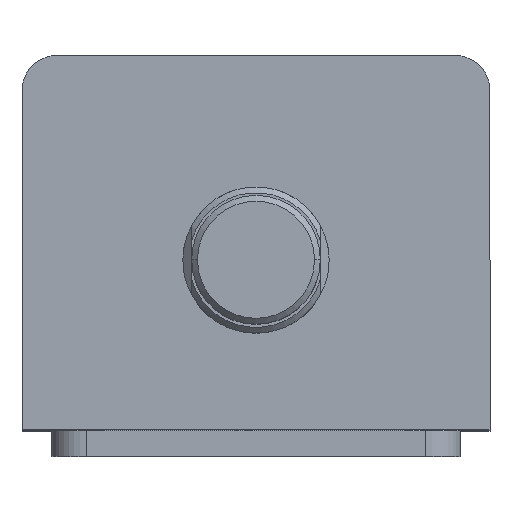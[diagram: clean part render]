
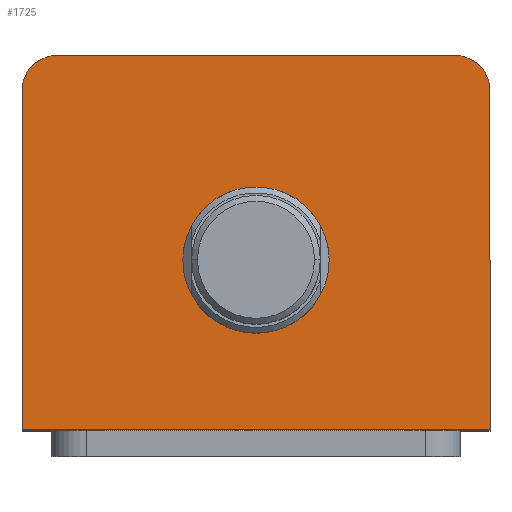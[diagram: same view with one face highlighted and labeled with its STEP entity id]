
A CAD part, top view. The second image highlights one B-rep face of the part: STEP entity #1725.
In plain terms, the highlighted planar face has unit normal (0, 0, 1).
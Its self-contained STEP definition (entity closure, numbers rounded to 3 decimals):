
#7 = CARTESIAN_POINT ( 'NONE',  ( -40., 26., 120. ) ) ;
#28 = CARTESIAN_POINT ( 'NONE',  ( -34., 32., 120. ) ) ;
#68 = CARTESIAN_POINT ( 'NONE',  ( 40., -32., 120. ) ) ;
#83 = CARTESIAN_POINT ( 'NONE',  ( 34., 32., 120. ) ) ;
#93 = CARTESIAN_POINT ( 'NONE',  ( 40., 26., 120. ) ) ;
#136 = CARTESIAN_POINT ( 'NONE',  ( -12.5, -3., 120. ) ) ;
#168 = CARTESIAN_POINT ( 'NONE',  ( 12.5, -3., 120. ) ) ;
#178 = CARTESIAN_POINT ( 'NONE',  ( -40., -32., 120. ) ) ;
#217 = AXIS2_PLACEMENT_3D ( 'NONE', #895, #893, #892 ) ;
#250 = AXIS2_PLACEMENT_3D ( 'NONE', #1399, #1398, #1397 ) ;
#257 = AXIS2_PLACEMENT_3D ( 'NONE', #1426, #1425, #1424 ) ;
#405 = ORIENTED_EDGE ( 'NONE', *, *, #1126, .T. ) ;
#406 = ORIENTED_EDGE ( 'NONE', *, *, #1672, .F. ) ;
#407 = ORIENTED_EDGE ( 'NONE', *, *, #1165, .F. ) ;
#527 = EDGE_LOOP ( 'NONE', ( #407, #406 ) ) ;
#561 = EDGE_LOOP ( 'NONE', ( #405, #2352, #2351, #2350, #2349, #2348 ) ) ;
#892 = DIRECTION ( 'NONE',  ( 1., 0., 0. ) ) ;
#893 = DIRECTION ( 'NONE',  ( 0., 0., 1. ) ) ;
#895 = CARTESIAN_POINT ( 'NONE',  ( 0., -3., 120. ) ) ;
#1106 = EDGE_CURVE ( 'NONE', #2076, #2198, #2363, .T. ) ;
#1126 = EDGE_CURVE ( 'NONE', #2090, #2160, #2392, .T. ) ;
#1139 = EDGE_CURVE ( 'NONE', #2198, #2090, #2410, .T. ) ;
#1148 = EDGE_CURVE ( 'NONE', #2160, #2219, #2421, .T. ) ;
#1152 = EDGE_CURVE ( 'NONE', #2219, #2151, #2427, .T. ) ;
#1165 = EDGE_CURVE ( 'NONE', #2166, #2184, #2453, .T. ) ;
#1363 = DIRECTION ( 'NONE',  ( 1., 0., 0. ) ) ;
#1364 = DIRECTION ( 'NONE',  ( 0., 0., 1. ) ) ;
#1365 = CARTESIAN_POINT ( 'NONE',  ( 0., -3., 120. ) ) ;
#1388 = DIRECTION ( 'NONE',  ( 0., -1., 0. ) ) ;
#1389 = CARTESIAN_POINT ( 'NONE',  ( -40., 32., 120. ) ) ;
#1397 = DIRECTION ( 'NONE',  ( 1., 0., 0. ) ) ;
#1398 = DIRECTION ( 'NONE',  ( 0., 0., 1. ) ) ;
#1399 = CARTESIAN_POINT ( 'NONE',  ( -34., 26., 120. ) ) ;
#1424 = DIRECTION ( 'NONE',  ( 1., 0., 0. ) ) ;
#1425 = DIRECTION ( 'NONE',  ( 0., 0., 1. ) ) ;
#1426 = CARTESIAN_POINT ( 'NONE',  ( 34., 26., 120. ) ) ;
#1457 = DIRECTION ( 'NONE',  ( -1., 0., 0. ) ) ;
#1458 = CARTESIAN_POINT ( 'NONE',  ( -40., 32., 120. ) ) ;
#1497 = DIRECTION ( 'NONE',  ( 0., 1., 0. ) ) ;
#1499 = CARTESIAN_POINT ( 'NONE',  ( 40., 32., 120. ) ) ;
#1672 = EDGE_CURVE ( 'NONE', #2184, #2166, #2686, .T. ) ;
#1701 = EDGE_CURVE ( 'NONE', #2151, #2076, #2730, .T. ) ;
#1725 = ADVANCED_FACE ( 'NONE', ( #2773, #2779 ), #3439, .T. ) ;
#2076 = VERTEX_POINT ( 'NONE', #68 ) ;
#2090 = VERTEX_POINT ( 'NONE', #83 ) ;
#2151 = VERTEX_POINT ( 'NONE', #178 ) ;
#2160 = VERTEX_POINT ( 'NONE', #28 ) ;
#2166 = VERTEX_POINT ( 'NONE', #168 ) ;
#2184 = VERTEX_POINT ( 'NONE', #136 ) ;
#2198 = VERTEX_POINT ( 'NONE', #93 ) ;
#2219 = VERTEX_POINT ( 'NONE', #7 ) ;
#2348 = ORIENTED_EDGE ( 'NONE', *, *, #1139, .T. ) ;
#2349 = ORIENTED_EDGE ( 'NONE', *, *, #1106, .T. ) ;
#2350 = ORIENTED_EDGE ( 'NONE', *, *, #1701, .T. ) ;
#2351 = ORIENTED_EDGE ( 'NONE', *, *, #1152, .T. ) ;
#2352 = ORIENTED_EDGE ( 'NONE', *, *, #1148, .T. ) ;
#2363 = LINE ( 'NONE', #1499, #2366 ) ;
#2366 = VECTOR ( 'NONE', #1497, 1000. ) ;
#2392 = LINE ( 'NONE', #1458, #2395 ) ;
#2395 = VECTOR ( 'NONE', #1457, 1000. ) ;
#2410 = CIRCLE ( 'NONE', #257, 6. ) ;
#2421 = CIRCLE ( 'NONE', #250, 6. ) ;
#2427 = LINE ( 'NONE', #1389, #2430 ) ;
#2430 = VECTOR ( 'NONE', #1388, 1000. ) ;
#2453 = CIRCLE ( 'NONE', #3759, 12.5 ) ;
#2686 = CIRCLE ( 'NONE', #217, 12.5 ) ;
#2730 = LINE ( 'NONE', #3348, #2733 ) ;
#2733 = VECTOR ( 'NONE', #3343, 1000. ) ;
#2773 = FACE_BOUND ( 'NONE', #527, .T. ) ;
#2779 = FACE_OUTER_BOUND ( 'NONE', #561, .T. ) ;
#2937 = AXIS2_PLACEMENT_3D ( 'NONE', #3436, #3431, #3430 ) ;
#3343 = DIRECTION ( 'NONE',  ( 1., 0., 0. ) ) ;
#3348 = CARTESIAN_POINT ( 'NONE',  ( -40., -32., 120. ) ) ;
#3430 = DIRECTION ( 'NONE',  ( 1., 0., 0. ) ) ;
#3431 = DIRECTION ( 'NONE',  ( 0., 0., 1. ) ) ;
#3436 = CARTESIAN_POINT ( 'NONE',  ( 0., 0., 120. ) ) ;
#3439 = PLANE ( 'NONE',  #2937 ) ;
#3759 = AXIS2_PLACEMENT_3D ( 'NONE', #1365, #1364, #1363 ) ;
